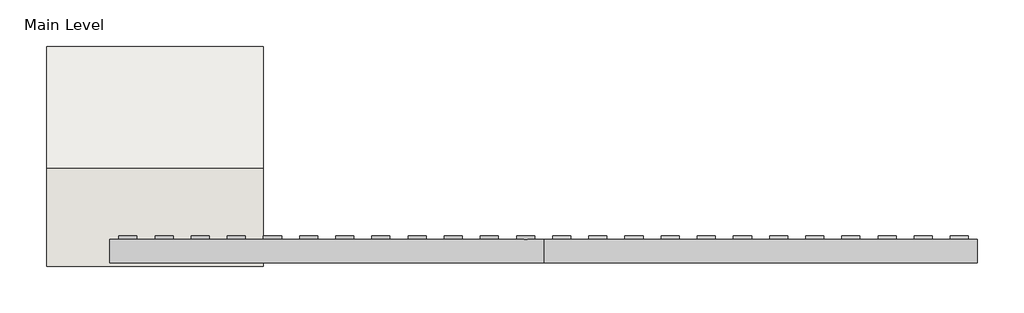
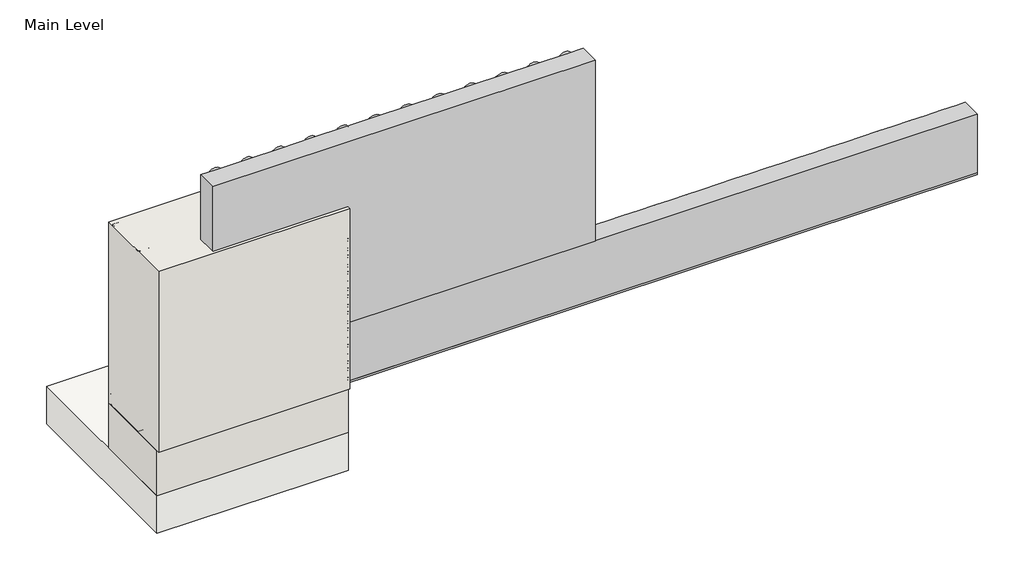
# One storey, incomplete: 10 proxies, 2 walls, 1 slab.
"""IFC4 building model written with IfcOpenShell, lengths in millimetres."""

from ifc_helpers import new_model, si_unit, frame, origin, origin_with_axes, place, context, project, spatial, polyline, outline, extrude, transform, mapped, element, save
from components import generic_models_31547c53, generic_models_0bbfdc8f, generic_models_1e1ad44f, generic_models_7dd17a53, generic_models_441de798, generic_models_a6b5edb7, generic_models_9d0e7a2a, proxy_50213ae0, proxy_cc65e3d2, wood_blocking_9d9260b2

model = new_model("IFC4")

# Units and contexts
model_context = context("Model", 3, world=origin())
ifc_project = project(units=[si_unit("LENGTHUNIT", "METRE", prefix="MILLI")], contexts=[model_context])

# Site, building, storey
site = spatial("IfcSite", under=ifc_project)
building = spatial("IfcBuilding", under=site)
storey = spatial("IfcBuildingStorey", under=building, Name="Main Level", Elevation=0.0)

# Proxies
placement = place(None, origin())
generic_models_shape = generic_models_31547c53(model_context)
element("IfcBuildingElementProxy", 1, Name="Durabond Generic Model Sealant Vent : Durabond Generic Model Sealant Vent", ObjectType="Durabond Generic Model Sealant Vent : Durabond Generic Model Sealant Vent", at=placement, inside=storey, context=model_context, shape_type="MappedRepresentation", body=[
    mapped(generic_models_shape, transform((26865.4101773, 546.8432813, 8.5594788), x_axis=(1.0, 0.0, 0.0), y_axis=(0.0, 0.08715574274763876, -0.9961946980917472), z_axis=(0.0, 0.9961946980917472, 0.08715574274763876))),
])
generic_models_2_shape = generic_models_0bbfdc8f(model_context)
generic_models_3_shape = generic_models_1e1ad44f(model_context)
generic_models_4_shape = generic_models_7dd17a53(model_context)
generic_models_5_shape = generic_models_441de798(model_context)
element("IfcBuildingElementProxy", 2, Name="CRAi Generic Model Mesh Piece Face Based : CRAi Generic Model Mesh Piece Face Based", ObjectType="CRAi Generic Model Mesh Piece Face Based : CRAi Generic Model Mesh Piece Face Based", at=placement, inside=storey, context=model_context, shape_type="MappedRepresentation", body=[
    mapped(generic_models_2_shape, transform((26933.6726773, 541.9066297, 261.6963215), x_axis=(-1.0, 0.0, 0.0), y_axis=(0.0, 0.0, -1.0), z_axis=(0.0, -1.0, 0.0))),
    mapped(generic_models_3_shape, transform((26933.6726773, 541.9066297, 261.6963215), x_axis=(-1.0, 0.0, 0.0), y_axis=(0.0, 0.0, -1.0), z_axis=(0.0, -1.0, 0.0))),
    mapped(generic_models_4_shape, transform((26933.6726773, 541.9066297, 261.6963215), x_axis=(-1.0, 0.0, 0.0), y_axis=(0.0, 0.0, -1.0), z_axis=(0.0, -1.0, 0.0))),
    mapped(generic_models_5_shape, transform((26933.6726773, 541.9066297, 261.6963215), x_axis=(-1.0, 0.0, 0.0), y_axis=(0.0, 0.0, -1.0), z_axis=(0.0, -1.0, 0.0))),
])
generic_models_6_shape = generic_models_a6b5edb7(model_context)
element("IfcBuildingElementProxy", 3, Name="Durabond Generic Model Insulation Adhesive Flat : Durabond Generic Model Insulation Adhesive Flat", ObjectType="Durabond Generic Model Insulation Adhesive Flat : Durabond Generic Model Insulation Adhesive Flat", at=placement, inside=storey, context=model_context, shape_type="MappedRepresentation", body=[
    mapped(generic_models_6_shape, transform((26717.7726773, 627.6316297, 88.9), x_axis=(1.0, 0.0, 0.0), y_axis=(0.0, 1.0, 0.0), z_axis=(0.0, 0.0, 1.0))),
])
element("IfcBuildingElementProxy", 4, Name="Durabond Generic Model Insulation Adhesive Flat : Durabond Generic Model Insulation Adhesive Flat", ObjectType="Durabond Generic Model Insulation Adhesive Flat : Durabond Generic Model Insulation Adhesive Flat", at=placement, inside=storey, context=model_context, shape_type="MappedRepresentation", body=[
    mapped(generic_models_6_shape, transform((26819.3726773, 627.6316297, 88.9), x_axis=(1.0, 0.0, 0.0), y_axis=(0.0, 1.0, 0.0), z_axis=(0.0, 0.0, 1.0))),
])
element("IfcBuildingElementProxy", 5, Name="Durabond Generic Model Insulation Adhesive Flat : Durabond Generic Model Insulation Adhesive Flat", ObjectType="Durabond Generic Model Insulation Adhesive Flat : Durabond Generic Model Insulation Adhesive Flat", at=placement, inside=storey, context=model_context, shape_type="MappedRepresentation", body=[
    mapped(generic_models_6_shape, transform((26920.9726773, 627.6316297, 88.9), x_axis=(1.0, 0.0, 0.0), y_axis=(0.0, 1.0, 0.0), z_axis=(0.0, 0.0, 1.0))),
])
element("IfcBuildingElementProxy", 6, Name="Durabond Generic Model Insulation Adhesive Flat : Durabond Generic Model Insulation Adhesive Flat", ObjectType="Durabond Generic Model Insulation Adhesive Flat : Durabond Generic Model Insulation Adhesive Flat", at=placement, inside=storey, context=model_context, shape_type="MappedRepresentation", body=[
    mapped(generic_models_6_shape, transform((27022.5726773, 627.6316297, 88.9), x_axis=(1.0, 0.0, 0.0), y_axis=(0.0, 1.0, 0.0), z_axis=(0.0, 0.0, 1.0))),
])
generic_models_7_shape = generic_models_9d0e7a2a(model_context)
element("IfcBuildingElementProxy", 7, Name="CRAi Generic Model Metal Stud Array : CRAi Generic Model Metal Stud Array", ObjectType="CRAi Generic Model Metal Stud Array : CRAi Generic Model Metal Stud Array", at=placement, inside=storey, context=model_context, shape_type="MappedRepresentation", body=[
    mapped(generic_models_7_shape, transform((26692.3726773, 726.0566297, 6.35), x_axis=(-1.0, 0.0, 0.0), y_axis=(0.0, -1.0, 0.0), z_axis=(0.0, 0.0, 1.0))),
])
proxy_shape = proxy_50213ae0(model_context)
element("IfcBuildingElementProxy", 8, Name="Durabond Generic Model Quantum Select 5-0 Insulation Board : 3\"", ObjectType="Durabond Generic Model Quantum Select 5-0 Insulation Board : 3\"", at=placement, inside=storey, context=model_context, shape_type="MappedRepresentation", body=[
    mapped(proxy_shape, transform((27276.5726773, 624.4566297, 523.392643), x_axis=(1.0, 0.0, 0.0), y_axis=(0.0, 0.0, 1.0), z_axis=(0.0, -1.0, 0.0))),
])
proxy_2_shape = proxy_cc65e3d2(model_context)
element("IfcBuildingElementProxy", 9, Name="Durabond Generic Model Quantum Select 5-0 Vent Board : 3\"", ObjectType="Durabond Generic Model Quantum Select 5-0 Vent Board : 3\"", at=placement, inside=storey, context=model_context, shape_type="MappedRepresentation", body=[
    mapped(proxy_2_shape, transform((27886.1726773, 624.4566297, 116.992643), x_axis=(1.0, 0.0, 0.0), y_axis=(0.0, 0.0, 1.0), z_axis=(0.0, -1.0, 0.0))),
])
wood_blocking_shape = wood_blocking_9d9260b2(model_context)
element("IfcBuildingElementProxy", 10, Name="CRAi Generic Model Line Based Metal Framing Track : Wood Blocking", ObjectType="CRAi Generic Model Line Based Metal Framing Track : Wood Blocking", at=placement, inside=storey, context=model_context, shape_type="MappedRepresentation", body=[
    mapped(wood_blocking_shape, transform((27094.739438, 802.2566297, 0.0), x_axis=(-1.0, 0.0, 0.0), y_axis=(0.0, -1.0, 0.0), z_axis=(0.0, 0.0, 1.0))),
])

# Slab
element("IfcSlab", 11, ObjectType="CRAi Concrete Floor - 5\"", at=placement, inside=storey, context=model_context, shape_type="SweptSolid", body=[
    extrude(outline(polyline([(27098.7726773, 548.2566297), (26489.1726773, 548.2566297), (26489.1726773, 1157.8566297), (27098.7726773, 1157.8566297), (27098.7726773, 548.2566297)])), frame((0.0, 0.0, -279.4), z_axis=(0.0, 0.0, 1.0), x_axis=(1.0, 0.0, 0.0)), (0.0, 0.0, 1.0), 127.0),
])

# Walls
element("IfcWall", 12, ObjectType="189mm (7.5”) EIFS Field Applied on Mtl. Stud Layer - 50mm Grooved Insulation Board Metal Stud Wall", at=placement, inside=storey, context=model_context, shape_type="SweptSolid", body=[
    extrude(outline(polyline([(27098.7726773, 538.7316297), (26489.1726773, 538.7316297), (26489.1726773, 814.9566297), (27098.7726773, 814.9566297), (27098.7726773, 538.7316297)])), origin_with_axes(), (0.0, 0.0, 1.0), 609.6),
])
element("IfcWall", 13, ObjectType="Durabond 10.5\" Concrete Curb", at=placement, inside=storey, context=model_context, shape_type="SweptSolid", body=[
    extrude(outline(polyline([(27098.7726773, 548.2566297), (26489.1726773, 548.2566297), (26489.1726773, 814.9566297), (27098.7726773, 814.9566297), (27098.7726773, 548.2566297)])), frame((0.0, 0.0, -152.4), z_axis=(0.0, 0.0, 1.0), x_axis=(1.0, 0.0, 0.0)), (0.0, 0.0, 1.0), 152.4),
])

save(model, "model.ifc")
